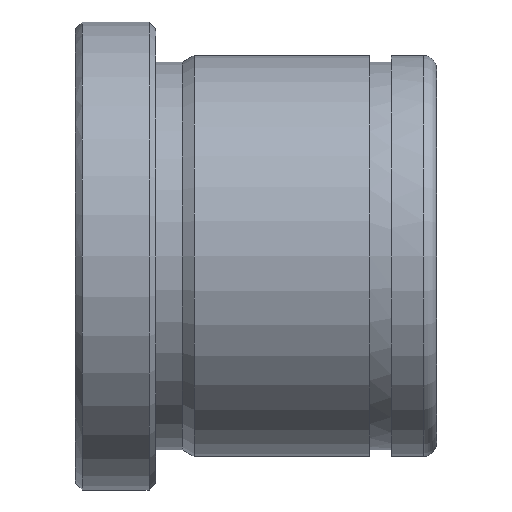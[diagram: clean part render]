
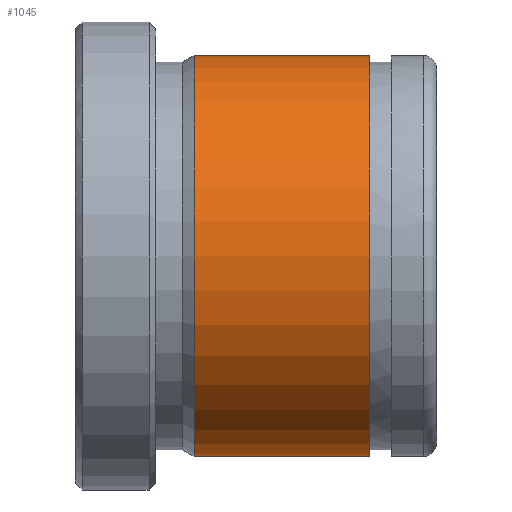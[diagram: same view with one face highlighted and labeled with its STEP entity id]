
A CAD part, front view. The second image highlights one B-rep face of the part: STEP entity #1045.
In plain terms, the highlighted cylindrical face has radius 15 mm (diameter 30 mm), a partial arc.
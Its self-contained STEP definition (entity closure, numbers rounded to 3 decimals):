
#851=CARTESIAN_POINT('Vertex',(8.866,0.,-15.)) ;
#858=CARTESIAN_POINT('Vertex',(8.866,0.,15.)) ;
#887=CARTESIAN_POINT('Axis2P3D Location',(8.866,0.,0.)) ;
#891=CARTESIAN_POINT('Vertex',(8.866,-15.,0.)) ;
#894=CARTESIAN_POINT('Axis2P3D Location',(8.866,0.,0.)) ;
#985=CARTESIAN_POINT('Line Origine',(54.,0.,15.)) ;
#989=CARTESIAN_POINT('Vertex',(22.,0.,15.)) ;
#1003=CARTESIAN_POINT('Vertex',(22.,0.,-15.)) ;
#1006=CARTESIAN_POINT('Line Origine',(54.,0.,-15.)) ;
#1020=CARTESIAN_POINT('Axis2P3D Location',(54.,0.,0.)) ;
#1025=CARTESIAN_POINT('Axis2P3D Location',(22.,0.,0.)) ;
#1029=CARTESIAN_POINT('Vertex',(22.,-15.,0.)) ;
#1032=CARTESIAN_POINT('Axis2P3D Location',(22.,0.,0.)) ;
#888=DIRECTION('Axis2P3D Direction',(1.,0.,-0.)) ;
#895=DIRECTION('Axis2P3D Direction',(1.,0.,-0.)) ;
#986=DIRECTION('Vector Direction',(-1.,0.,0.)) ;
#1007=DIRECTION('Vector Direction',(-1.,0.,0.)) ;
#1021=DIRECTION('Axis2P3D Direction',(-1.,-0.,-0.)) ;
#1022=DIRECTION('Axis2P3D XDirection',(0.,0.,-1.)) ;
#1026=DIRECTION('Axis2P3D Direction',(-1.,-0.,-0.)) ;
#1033=DIRECTION('Axis2P3D Direction',(-1.,-0.,-0.)) ;
#889=AXIS2_PLACEMENT_3D('Circle Axis2P3D',#887,#888,$) ;
#896=AXIS2_PLACEMENT_3D('Circle Axis2P3D',#894,#895,$) ;
#1023=AXIS2_PLACEMENT_3D('Cylinder Axis2P3D',#1020,#1021,#1022) ;
#1027=AXIS2_PLACEMENT_3D('Circle Axis2P3D',#1025,#1026,$) ;
#1034=AXIS2_PLACEMENT_3D('Circle Axis2P3D',#1032,#1033,$) ;
#1038=ORIENTED_EDGE('',*,*,#1010,.T.) ;
#1039=ORIENTED_EDGE('',*,*,#1031,.F.) ;
#1040=ORIENTED_EDGE('',*,*,#1036,.F.) ;
#1041=ORIENTED_EDGE('',*,*,#991,.T.) ;
#1042=ORIENTED_EDGE('',*,*,#898,.T.) ;
#1043=ORIENTED_EDGE('',*,*,#893,.T.) ;
#987=VECTOR('Line Direction',#986,1.) ;
#1008=VECTOR('Line Direction',#1007,1.) ;
#1045=ADVANCED_FACE('553-22X27',(#1044),#1024,.T.) ;
#890=CIRCLE('generated circle',#889,15.) ;
#897=CIRCLE('generated circle',#896,15.) ;
#1028=CIRCLE('generated circle',#1027,15.) ;
#1035=CIRCLE('generated circle',#1034,15.) ;
#1024=CYLINDRICAL_SURFACE('generated cylinder',#1023,15.) ;
#893=EDGE_CURVE('',#892,#852,#890,.T.) ;
#898=EDGE_CURVE('',#859,#892,#897,.T.) ;
#991=EDGE_CURVE('',#990,#859,#988,.T.) ;
#1010=EDGE_CURVE('',#852,#1004,#1009,.F.) ;
#1031=EDGE_CURVE('',#1030,#1004,#1028,.F.) ;
#1036=EDGE_CURVE('',#990,#1030,#1035,.F.) ;
#1037=EDGE_LOOP('',(#1038,#1039,#1040,#1041,#1042,#1043)) ;
#1044=FACE_OUTER_BOUND('',#1037,.T.) ;
#988=LINE('Line',#985,#987) ;
#1009=LINE('Line',#1006,#1008) ;
#852=VERTEX_POINT('',#851) ;
#859=VERTEX_POINT('',#858) ;
#892=VERTEX_POINT('',#891) ;
#990=VERTEX_POINT('',#989) ;
#1004=VERTEX_POINT('',#1003) ;
#1030=VERTEX_POINT('',#1029) ;
